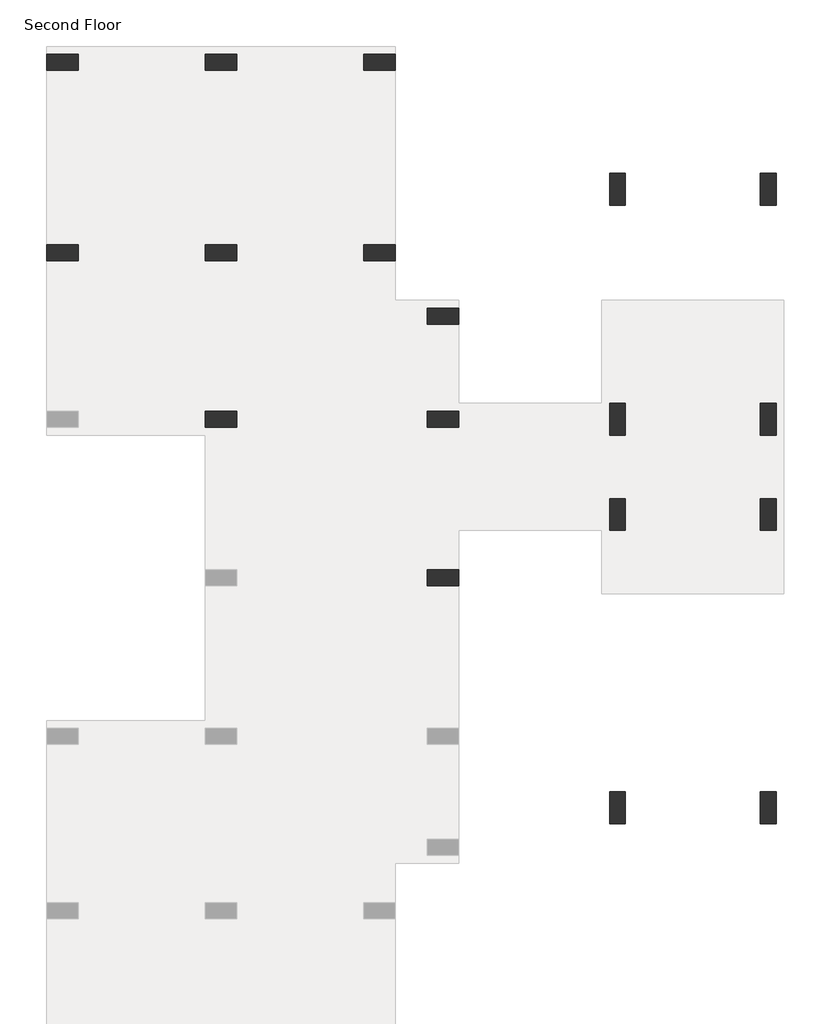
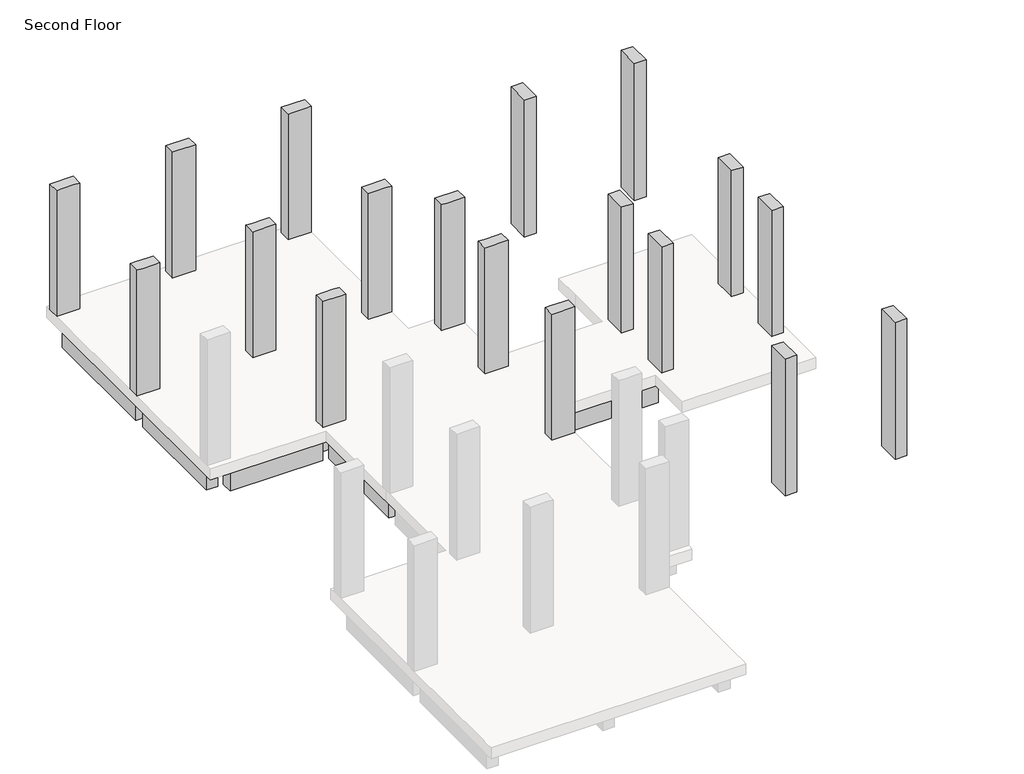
# One storey, part 2 of 2: 21 beams, 18 columns.
"""IFC4 building model written with IfcOpenShell, lengths in millimetres."""

from ifc_helpers import new_model, si_unit, frame, origin, place, context, project, spatial, polyline, outline, extrude, faceted_brep, element, save

model = new_model("IFC4")

# Units and contexts
model_context = context("Model", 3, world=origin())
ifc_project = project(units=[si_unit("LENGTHUNIT", "METRE", prefix="MILLI")], contexts=[model_context])

# Site, building, storey
site = spatial("IfcSite", under=ifc_project)
building = spatial("IfcBuilding", under=site)
storey = spatial("IfcBuildingStorey", under=building, Name="Second Floor", Elevation=3810.0)

# Beams
placement = place(None, origin())
element("IfcBeam", 1, ObjectType="Concrete-Rectangular Beam : 12 x 24", at=placement, inside=storey, context=model_context, shape_type="SweptSolid", body=[
    extrude(outline(polyline([(-12629.5554735, 14646.9867088), (-12629.5554735, 14342.1867088), (-15067.9554735, 14342.1867088), (-15067.9554735, 14646.9867088), (-12629.5554735, 14646.9867088)])), frame((0.0, 0.0, 2895.6), z_axis=(0.0, 0.0, 1.0), x_axis=(1.0, 0.0, 0.0)), (0.0, 0.0, 1.0), 609.6),
])
element("IfcBeam", 2, ObjectType="Concrete-Rectangular Beam : 12 x 24", at=placement, inside=storey, context=model_context, shape_type="SweptSolid", body=[
    extrude(outline(polyline([(-9581.5554735, 14646.9867088), (-9581.5554735, 14342.1867088), (-12019.9554735, 14342.1867088), (-12019.9554735, 14646.9867088), (-9581.5554735, 14646.9867088)])), frame((0.0, 0.0, 2895.6), z_axis=(0.0, 0.0, 1.0), x_axis=(1.0, 0.0, 0.0)), (0.0, 0.0, 1.0), 609.6),
])
element("IfcBeam", 3, ObjectType="Concrete-Rectangular Beam : 12 x 24", at=placement, inside=storey, context=model_context, shape_type="SweptSolid", body=[
    extrude(outline(polyline([(-15525.1554735, 14342.1867088), (-15220.3554735, 14342.1867088), (-15220.3554735, 10989.3867088), (-15525.1554735, 10989.3867088), (-15525.1554735, 14342.1867088)])), frame((0.0, 0.0, 2895.6), z_axis=(0.0, 0.0, 1.0), x_axis=(1.0, 0.0, 0.0)), (0.0, 0.0, 1.0), 609.6),
])
element("IfcBeam", 4, ObjectType="Concrete-Rectangular Beam : 12 x 24", at=placement, inside=storey, context=model_context, shape_type="SweptSolid", body=[
    extrude(outline(polyline([(-12629.5554735, 10989.3867088), (-12629.5554735, 10684.5867088), (-15067.9554735, 10684.5867088), (-15067.9554735, 10989.3867088), (-12629.5554735, 10989.3867088)])), frame((0.0, 0.0, 2895.6), z_axis=(0.0, 0.0, 1.0), x_axis=(1.0, 0.0, 0.0)), (0.0, 0.0, 1.0), 609.6),
])
element("IfcBeam", 5, ObjectType="Concrete-Rectangular Beam : 12 x 24", at=placement, inside=storey, context=model_context, shape_type="SweptSolid", body=[
    extrude(outline(polyline([(-12019.9554735, 10684.5867088), (-12019.9554735, 10989.3867088), (-9581.5554735, 10989.3867088), (-9581.5554735, 10684.5867088), (-12019.9554735, 10684.5867088)])), frame((0.0, 0.0, 2895.6), z_axis=(0.0, 0.0, 1.0), x_axis=(1.0, 0.0, 0.0)), (0.0, 0.0, 1.0), 609.6),
])
element("IfcBeam", 6, ObjectType="Concrete-Rectangular Beam : 12 x 24", at=placement, inside=storey, context=model_context, shape_type="SweptSolid", body=[
    extrude(outline(polyline([(-12172.3554735, 10989.3867088), (-12477.1554735, 10989.3867088), (-12477.1554735, 14342.1867088), (-12172.3554735, 14342.1867088), (-12172.3554735, 10989.3867088)])), frame((0.0, 0.0, 2895.6), z_axis=(0.0, 0.0, 1.0), x_axis=(1.0, 0.0, 0.0)), (0.0, 0.0, 1.0), 609.6),
])
element("IfcBeam", 7, ObjectType="Concrete-Rectangular Beam : 12 x 24", at=placement, inside=storey, context=model_context, shape_type="SweptSolid", body=[
    extrude(outline(polyline([(-9124.3554735, 10989.3867088), (-9429.1554735, 10989.3867088), (-9429.1554735, 14342.1867088), (-9124.3554735, 14342.1867088), (-9124.3554735, 10989.3867088)])), frame((0.0, 0.0, 2895.6), z_axis=(0.0, 0.0, 1.0), x_axis=(1.0, 0.0, 0.0)), (0.0, 0.0, 1.0), 609.6),
])
element("IfcBeam", 8, ObjectType="Concrete-Rectangular Beam : 12 x 24", at=placement, inside=storey, context=model_context, shape_type="Brep", body=[
    faceted_brep([(-9124.3554735, 10684.5867088, 3505.2), (-9429.1554735, 10684.5867088, 3505.2), (-9429.1554735, 9465.3867088, 3505.2), (-9124.3554735, 9465.3867088, 3505.2), (-9124.3554735, 9770.1867088, 3505.2), (-9429.1554735, 10684.5867088, 2895.6), (-9429.1554735, 9465.3867088, 2895.6), (-9124.3554735, 10684.5867088, 2895.6), (-9124.3554735, 9770.1867088, 2895.6), (-9124.3554735, 9465.3867088, 2895.6)], [[[0, 1, 2, 3, 4]], [[1, 5, 6, 2]], [[5, 7, 8, 9, 6]], [[7, 0, 4, 3, 9, 8]], [[0, 7, 5, 1]], [[3, 2, 6, 9]]]),
])
element("IfcBeam", 9, ObjectType="Concrete-Rectangular Beam : 12 x 24", at=placement, inside=storey, context=model_context, shape_type="SweptSolid", body=[
    extrude(outline(polyline([(-8362.3554735, 9770.1867088), (-8362.3554735, 9465.3867088), (-9124.3554735, 9465.3867088), (-9124.3554735, 9770.1867088), (-8362.3554735, 9770.1867088)])), frame((0.0, 0.0, 2895.6), z_axis=(0.0, 0.0, 1.0), x_axis=(1.0, 0.0, 0.0)), (0.0, 0.0, 1.0), 609.6),
])
element("IfcBeam", 10, ObjectType="Concrete-Rectangular Beam : 12 x 24", at=placement, inside=storey, context=model_context, shape_type="SweptSolid", body=[
    extrude(outline(polyline([(-7905.1554735, 7788.9867088), (-8209.9554735, 7788.9867088), (-8209.9554735, 9465.3867088), (-7905.1554735, 9465.3867088), (-7905.1554735, 7788.9867088)])), frame((0.0, 0.0, 2895.6), z_axis=(0.0, 0.0, 1.0), x_axis=(1.0, 0.0, 0.0)), (0.0, 0.0, 1.0), 609.6),
])
element("IfcBeam", 11, ObjectType="Concrete-Rectangular Beam : 12 x 24", at=placement, inside=storey, context=model_context, shape_type="SweptSolid", body=[
    extrude(outline(polyline([(-7752.7554735, 7484.1867088), (-7752.7554735, 7788.9867088), (-4857.1554735, 7788.9867088), (-4857.1554735, 7484.1867088), (-7752.7554735, 7484.1867088)])), frame((0.0, 0.0, 2895.6), z_axis=(0.0, 0.0, 1.0), x_axis=(1.0, 0.0, 0.0)), (0.0, 0.0, 1.0), 609.6),
])
element("IfcBeam", 12, ObjectType="Concrete-Rectangular Beam : 12 x 24", at=placement, inside=storey, context=model_context, shape_type="SweptSolid", body=[
    extrude(outline(polyline([(-4552.3554735, 7484.1867088), (-4552.3554735, 7788.9867088), (-1961.5554735, 7788.9867088), (-1961.5554735, 7484.1867088), (-4552.3554735, 7484.1867088)])), frame((0.0, 0.0, 2895.6), z_axis=(0.0, 0.0, 1.0), x_axis=(1.0, 0.0, 0.0)), (0.0, 0.0, 1.0), 609.6),
])
element("IfcBeam", 13, ObjectType="Concrete-Rectangular Beam : 12 x 24", at=placement, inside=storey, context=model_context, shape_type="SweptSolid", body=[
    extrude(outline(polyline([(-4552.3554735, 5655.3867088), (-4552.3554735, 5960.1867088), (-1961.5554735, 5960.1867088), (-1961.5554735, 5655.3867088), (-4552.3554735, 5655.3867088)])), frame((0.0, 0.0, 2895.6), z_axis=(0.0, 0.0, 1.0), x_axis=(1.0, 0.0, 0.0)), (0.0, 0.0, 1.0), 609.6),
])
element("IfcBeam", 14, ObjectType="Concrete-Rectangular Beam : 12 x 24", at=placement, inside=storey, context=model_context, shape_type="SweptSolid", body=[
    extrude(outline(polyline([(-7905.1554735, 5655.3867088), (-7905.1554735, 5960.1867088), (-4857.1554735, 5960.1867088), (-4857.1554735, 5655.3867088), (-7905.1554735, 5655.3867088)])), frame((0.0, 0.0, 2895.6), z_axis=(0.0, 0.0, 1.0), x_axis=(1.0, 0.0, 0.0)), (0.0, 0.0, 1.0), 609.6),
])
element("IfcBeam", 15, ObjectType="Concrete-Rectangular Beam : 12 x 24", at=placement, inside=storey, context=model_context, shape_type="Brep", body=[
    faceted_brep([(-8209.9554735, 4740.9867088, 3505.2), (-7905.1554735, 4740.9867088, 3505.2), (-7905.1554735, 5655.3867088, 3505.2), (-7905.1554735, 5960.1867088, 3505.2), (-7905.1554735, 7484.1867088, 3505.2), (-8209.9554735, 7484.1867088, 3505.2), (-8209.9554735, 4740.9867088, 2895.6), (-8209.9554735, 7484.1867088, 2895.6), (-7905.1554735, 4740.9867088, 2895.6), (-7905.1554735, 7484.1867088, 2895.6), (-7905.1554735, 5960.1867088, 2895.6), (-7905.1554735, 5655.3867088, 2895.6)], [[[0, 1, 2, 3, 4, 5]], [[6, 0, 5, 7]], [[8, 6, 7, 9, 10, 11]], [[1, 8, 11, 10, 9, 4, 3, 2]], [[4, 9, 7, 5]], [[1, 0, 6, 8]]]),
])
element("IfcBeam", 16, ObjectType="Concrete-Rectangular Beam : 12 x 24", at=placement, inside=storey, context=model_context, shape_type="SweptSolid", body=[
    extrude(outline(polyline([(-12019.9554735, 4436.1867088), (-12019.9554735, 4740.9867088), (-8362.3554735, 4740.9867088), (-8362.3554735, 4436.1867088), (-12019.9554735, 4436.1867088)])), frame((0.0, 0.0, 2895.6), z_axis=(0.0, 0.0, 1.0), x_axis=(1.0, 0.0, 0.0)), (0.0, 0.0, 1.0), 609.6),
])
element("IfcBeam", 17, ObjectType="Concrete-Rectangular Beam : 12 x 24", at=placement, inside=storey, context=model_context, shape_type="SweptSolid", body=[
    extrude(outline(polyline([(-15220.3554735, 7788.9867088), (-15525.1554735, 7788.9867088), (-15525.1554735, 10684.5867088), (-15220.3554735, 10684.5867088), (-15220.3554735, 7788.9867088)])), frame((0.0, 0.0, 2895.6), z_axis=(0.0, 0.0, 1.0), x_axis=(1.0, 0.0, 0.0)), (0.0, 0.0, 1.0), 609.6),
])
element("IfcBeam", 18, ObjectType="Concrete-Rectangular Beam : 12 x 24", at=placement, inside=storey, context=model_context, shape_type="SweptSolid", body=[
    extrude(outline(polyline([(-12172.3554735, 7788.9867088), (-12477.1554735, 7788.9867088), (-12477.1554735, 10684.5867088), (-12172.3554735, 10684.5867088), (-12172.3554735, 7788.9867088)])), frame((0.0, 0.0, 2895.6), z_axis=(0.0, 0.0, 1.0), x_axis=(1.0, 0.0, 0.0)), (0.0, 0.0, 1.0), 609.6),
])
element("IfcBeam", 19, ObjectType="Concrete-Rectangular Beam : 12 x 24", at=placement, inside=storey, context=model_context, shape_type="SweptSolid", body=[
    extrude(outline(polyline([(-12019.9554735, 7484.1867088), (-12019.9554735, 7788.9867088), (-8362.3554735, 7788.9867088), (-8362.3554735, 7484.1867088), (-12019.9554735, 7484.1867088)])), frame((0.0, 0.0, 2895.6), z_axis=(0.0, 0.0, 1.0), x_axis=(1.0, 0.0, 0.0)), (0.0, 0.0, 1.0), 609.6),
])
element("IfcBeam", 20, ObjectType="Concrete-Rectangular Beam : 12 x 24", at=placement, inside=storey, context=model_context, shape_type="SweptSolid", body=[
    extrude(outline(polyline([(-12477.1554735, 7484.1867088), (-12172.3554735, 7484.1867088), (-12172.3554735, 4740.9867088), (-12477.1554735, 4740.9867088), (-12477.1554735, 7484.1867088)])), frame((0.0, 0.0, 2895.6), z_axis=(0.0, 0.0, 1.0), x_axis=(1.0, 0.0, 0.0)), (0.0, 0.0, 1.0), 609.6),
])
element("IfcBeam", 21, ObjectType="Concrete-Rectangular Beam : 12 x 24", at=placement, inside=storey, context=model_context, shape_type="SweptSolid", body=[
    extrude(outline(polyline([(-15067.9554735, 7484.1867088), (-15067.9554735, 7788.9867088), (-12629.5554735, 7788.9867088), (-12629.5554735, 7484.1867088), (-15067.9554735, 7484.1867088)])), frame((0.0, 0.0, 2895.6), z_axis=(0.0, 0.0, 1.0), x_axis=(1.0, 0.0, 0.0)), (0.0, 0.0, 1.0), 609.6),
])

# Columns
element("IfcColumn", 22, ObjectType="Concrete-Rectangular-Column : 12 x 24", at=placement, inside=storey, context=model_context, shape_type="Brep", body=[
    faceted_brep([(-15677.5554735, 14646.9867088, 3810.0), (-15067.9554735, 14646.9867088, 3810.0), (-15067.9554735, 14342.1867088, 3810.0), (-15677.5554735, 14342.1867088, 3810.0), (-15677.5554735, 14646.9867088, 7315.2), (-15067.9554735, 14646.9867088, 7315.2), (-15067.9554735, 14646.9867088, 6705.6), (-15067.9554735, 14342.1867088, 7315.2), (-15067.9554735, 14342.1867088, 6705.6), (-15220.3554735, 14342.1867088, 7315.2), (-15525.1554735, 14342.1867088, 7315.2), (-15677.5554735, 14342.1867088, 7315.2)], [[[0, 1, 2, 3]], [[4, 5, 6, 1, 0]], [[5, 7, 8, 2, 1, 6]], [[7, 9, 10, 11, 3, 2, 8]], [[11, 4, 0, 3]], [[4, 11, 10, 9, 7, 5]]]),
])
element("IfcColumn", 23, ObjectType="Concrete-Rectangular-Column : 12 x 24", at=placement, inside=storey, context=model_context, shape_type="Brep", body=[
    faceted_brep([(-12629.5554735, 14646.9867088, 3810.0), (-12019.9554735, 14646.9867088, 3810.0), (-12019.9554735, 14342.1867088, 3810.0), (-12629.5554735, 14342.1867088, 3810.0), (-12629.5554735, 14646.9867088, 7315.2), (-12019.9554735, 14646.9867088, 7315.2), (-12019.9554735, 14646.9867088, 6705.6), (-12629.5554735, 14646.9867088, 6705.6), (-12019.9554735, 14342.1867088, 7315.2), (-12019.9554735, 14342.1867088, 6705.6), (-12172.3554735, 14342.1867088, 7315.2), (-12477.1554735, 14342.1867088, 7315.2), (-12629.5554735, 14342.1867088, 7315.2), (-12629.5554735, 14342.1867088, 6705.6)], [[[0, 1, 2, 3]], [[4, 5, 6, 1, 0, 7]], [[5, 8, 9, 2, 1, 6]], [[8, 10, 11, 12, 13, 3, 2, 9]], [[12, 4, 7, 0, 3, 13]], [[4, 12, 11, 10, 8, 5]]]),
])
element("IfcColumn", 24, ObjectType="Concrete-Rectangular-Column : 12 x 24", at=placement, inside=storey, context=model_context, shape_type="Brep", body=[
    faceted_brep([(-9581.5554735, 14646.9867088, 3810.0), (-8971.9554735, 14646.9867088, 3810.0), (-8971.9554735, 14342.1867088, 3810.0), (-9581.5554735, 14342.1867088, 3810.0), (-9581.5554735, 14646.9867088, 7315.2), (-8971.9554735, 14646.9867088, 7315.2), (-9581.5554735, 14646.9867088, 6705.6), (-8971.9554735, 14342.1867088, 7315.2), (-9124.3554735, 14342.1867088, 7315.2), (-9429.1554735, 14342.1867088, 7315.2), (-9581.5554735, 14342.1867088, 7315.2), (-9581.5554735, 14342.1867088, 6705.6)], [[[0, 1, 2, 3]], [[4, 5, 1, 0, 6]], [[5, 7, 2, 1]], [[7, 8, 9, 10, 11, 3, 2]], [[10, 4, 6, 0, 3, 11]], [[4, 10, 9, 8, 7, 5]]]),
])
element("IfcColumn", 25, ObjectType="Concrete-Rectangular-Column : 12 x 24", at=placement, inside=storey, context=model_context, shape_type="Brep", body=[
    faceted_brep([(-15677.5554735, 10989.3867088, 3810.0), (-15067.9554735, 10989.3867088, 3810.0), (-15067.9554735, 10684.5867088, 3810.0), (-15677.5554735, 10684.5867088, 3810.0), (-15677.5554735, 10989.3867088, 7315.2), (-15525.1554735, 10989.3867088, 7315.2), (-15220.3554735, 10989.3867088, 7315.2), (-15067.9554735, 10989.3867088, 7315.2), (-15067.9554735, 10989.3867088, 6705.6), (-15067.9554735, 10684.5867088, 7315.2), (-15067.9554735, 10684.5867088, 6705.6), (-15220.3554735, 10684.5867088, 7315.2), (-15525.1554735, 10684.5867088, 7315.2), (-15677.5554735, 10684.5867088, 7315.2)], [[[0, 1, 2, 3]], [[4, 5, 6, 7, 8, 1, 0]], [[7, 9, 10, 2, 1, 8]], [[9, 11, 12, 13, 3, 2, 10]], [[13, 4, 0, 3]], [[4, 13, 12, 11, 9, 7, 6, 5]]]),
])
element("IfcColumn", 26, ObjectType="Concrete-Rectangular-Column : 12 x 24", at=placement, inside=storey, context=model_context, shape_type="Brep", body=[
    faceted_brep([(-12629.5554735, 10989.3867088, 3810.0), (-12019.9554735, 10989.3867088, 3810.0), (-12019.9554735, 10684.5867088, 3810.0), (-12629.5554735, 10684.5867088, 3810.0), (-12629.5554735, 10989.3867088, 7315.2), (-12477.1554735, 10989.3867088, 7315.2), (-12172.3554735, 10989.3867088, 7315.2), (-12019.9554735, 10989.3867088, 7315.2), (-12019.9554735, 10989.3867088, 6705.6), (-12629.5554735, 10989.3867088, 6705.6), (-12019.9554735, 10684.5867088, 7315.2), (-12019.9554735, 10684.5867088, 6705.6), (-12172.3554735, 10684.5867088, 7315.2), (-12477.1554735, 10684.5867088, 7315.2), (-12629.5554735, 10684.5867088, 7315.2), (-12629.5554735, 10684.5867088, 6705.6)], [[[0, 1, 2, 3]], [[4, 5, 6, 7, 8, 1, 0, 9]], [[7, 10, 11, 2, 1, 8]], [[10, 12, 13, 14, 15, 3, 2, 11]], [[14, 4, 9, 0, 3, 15]], [[4, 14, 13, 12, 10, 7, 6, 5]]]),
])
element("IfcColumn", 27, ObjectType="Concrete-Rectangular-Column : 12 x 24", at=placement, inside=storey, context=model_context, shape_type="Brep", body=[
    faceted_brep([(-9581.5554735, 10989.3867088, 3810.0), (-8971.9554735, 10989.3867088, 3810.0), (-8971.9554735, 10684.5867088, 3810.0), (-9581.5554735, 10684.5867088, 3810.0), (-9581.5554735, 10989.3867088, 7315.2), (-9429.1554735, 10989.3867088, 7315.2), (-9124.3554735, 10989.3867088, 7315.2), (-8971.9554735, 10989.3867088, 7315.2), (-9581.5554735, 10989.3867088, 6705.6), (-8971.9554735, 10684.5867088, 7315.2), (-9124.3554735, 10684.5867088, 7315.2), (-9429.1554735, 10684.5867088, 7315.2), (-9581.5554735, 10684.5867088, 7315.2), (-9581.5554735, 10684.5867088, 6705.6)], [[[0, 1, 2, 3]], [[4, 5, 6, 7, 1, 0, 8]], [[7, 9, 2, 1]], [[9, 10, 11, 12, 13, 3, 2]], [[12, 4, 8, 0, 3, 13]], [[4, 12, 11, 10, 9, 7, 6, 5]]]),
])
element("IfcColumn", 28, ObjectType="Concrete-Rectangular-Column : 12 x 24", at=placement, inside=storey, context=model_context, shape_type="Brep", body=[
    faceted_brep([(-8362.3554735, 9770.1867088, 3810.0), (-7752.7554735, 9770.1867088, 3810.0), (-7752.7554735, 9465.3867088, 3810.0), (-8362.3554735, 9465.3867088, 3810.0), (-8362.3554735, 9770.1867088, 7315.2), (-7752.7554735, 9770.1867088, 7315.2), (-8362.3554735, 9770.1867088, 6705.6), (-7752.7554735, 9465.3867088, 7315.2), (-7905.1554735, 9465.3867088, 7315.2), (-8209.9554735, 9465.3867088, 7315.2), (-8362.3554735, 9465.3867088, 7315.2), (-8362.3554735, 9465.3867088, 6705.6)], [[[0, 1, 2, 3]], [[4, 5, 1, 0, 6]], [[5, 7, 2, 1]], [[7, 8, 9, 10, 11, 3, 2]], [[10, 4, 6, 0, 3, 11]], [[4, 10, 9, 8, 7, 5]]]),
])
element("IfcColumn", 29, ObjectType="Concrete-Rectangular-Column : 12 x 24", at=placement, inside=storey, context=model_context, shape_type="Brep", body=[
    faceted_brep([(-12629.5554735, 7788.9867088, 3810.0), (-12019.9554735, 7788.9867088, 3810.0), (-12019.9554735, 7484.1867088, 3810.0), (-12629.5554735, 7484.1867088, 3810.0), (-12629.5554735, 7788.9867088, 7315.2), (-12477.1554735, 7788.9867088, 7315.2), (-12172.3554735, 7788.9867088, 7315.2), (-12019.9554735, 7788.9867088, 7315.2), (-12019.9554735, 7788.9867088, 6705.6), (-12629.5554735, 7788.9867088, 6705.6), (-12019.9554735, 7484.1867088, 7315.2), (-12019.9554735, 7484.1867088, 6705.6), (-12172.3554735, 7484.1867088, 7315.2), (-12477.1554735, 7484.1867088, 7315.2), (-12629.5554735, 7484.1867088, 7315.2), (-12629.5554735, 7484.1867088, 6705.6)], [[[0, 1, 2, 3]], [[4, 5, 6, 7, 8, 1, 0, 9]], [[7, 10, 11, 2, 1, 8]], [[10, 12, 13, 14, 15, 3, 2, 11]], [[14, 4, 9, 0, 3, 15]], [[4, 14, 13, 12, 10, 7, 6, 5]]]),
])
element("IfcColumn", 30, ObjectType="Concrete-Rectangular-Column : 12 x 24", at=placement, inside=storey, context=model_context, shape_type="Brep", body=[
    faceted_brep([(-8362.3554735, 7788.9867088, 3810.0), (-7752.7554735, 7788.9867088, 3810.0), (-7752.7554735, 7484.1867088, 3810.0), (-8362.3554735, 7484.1867088, 3810.0), (-8362.3554735, 7788.9867088, 7315.2), (-8209.9554735, 7788.9867088, 7315.2), (-7905.1554735, 7788.9867088, 7315.2), (-7752.7554735, 7788.9867088, 7315.2), (-7752.7554735, 7788.9867088, 6705.6), (-8362.3554735, 7788.9867088, 6705.6), (-7752.7554735, 7484.1867088, 7315.2), (-7752.7554735, 7484.1867088, 6705.6), (-7905.1554735, 7484.1867088, 7315.2), (-8209.9554735, 7484.1867088, 7315.2), (-8362.3554735, 7484.1867088, 7315.2), (-8362.3554735, 7484.1867088, 6705.6)], [[[0, 1, 2, 3]], [[4, 5, 6, 7, 8, 1, 0, 9]], [[7, 10, 11, 2, 1, 8]], [[10, 12, 13, 14, 15, 3, 2, 11]], [[14, 4, 9, 0, 3, 15]], [[4, 14, 13, 12, 10, 7, 6, 5]]]),
])
element("IfcColumn", 31, ObjectType="Concrete-Rectangular-Column : 12 x 24", at=placement, inside=storey, context=model_context, shape_type="SweptSolid", body=[
    extrude(outline(polyline([(-4857.1554735, 7331.7867088), (-4857.1554735, 7941.3867088), (-4552.3554735, 7941.3867088), (-4552.3554735, 7331.7867088), (-4857.1554735, 7331.7867088)])), frame((0.0, 0.0, 3810.0), z_axis=(0.0, 0.0, 1.0), x_axis=(1.0, 0.0, 0.0)), (0.0, 0.0, 1.0), 3505.2),
])
element("IfcColumn", 32, ObjectType="Concrete-Rectangular-Column : 12 x 24", at=placement, inside=storey, context=model_context, shape_type="SweptSolid", body=[
    extrude(outline(polyline([(-1961.5554735, 7331.7867088), (-1961.5554735, 7941.3867088), (-1656.7554735, 7941.3867088), (-1656.7554735, 7331.7867088), (-1961.5554735, 7331.7867088)])), frame((0.0, 0.0, 3810.0), z_axis=(0.0, 0.0, 1.0), x_axis=(1.0, 0.0, 0.0)), (0.0, 0.0, 1.0), 3505.2),
])
element("IfcColumn", 33, ObjectType="Concrete-Rectangular-Column : 12 x 24", at=placement, inside=storey, context=model_context, shape_type="SweptSolid", body=[
    extrude(outline(polyline([(-4857.1554735, 5502.9867088), (-4857.1554735, 6112.5867088), (-4552.3554735, 6112.5867088), (-4552.3554735, 5502.9867088), (-4857.1554735, 5502.9867088)])), frame((0.0, 0.0, 3810.0), z_axis=(0.0, 0.0, 1.0), x_axis=(1.0, 0.0, 0.0)), (0.0, 0.0, 1.0), 3505.2),
])
element("IfcColumn", 34, ObjectType="Concrete-Rectangular-Column : 12 x 24", at=placement, inside=storey, context=model_context, shape_type="SweptSolid", body=[
    extrude(outline(polyline([(-1961.5554735, 5502.9867088), (-1961.5554735, 6112.5867088), (-1656.7554735, 6112.5867088), (-1656.7554735, 5502.9867088), (-1961.5554735, 5502.9867088)])), frame((0.0, 0.0, 3810.0), z_axis=(0.0, 0.0, 1.0), x_axis=(1.0, 0.0, 0.0)), (0.0, 0.0, 1.0), 3505.2),
])
element("IfcColumn", 35, ObjectType="Concrete-Rectangular-Column : 12 x 24", at=placement, inside=storey, context=model_context, shape_type="Brep", body=[
    faceted_brep([(-8362.3554735, 4740.9867088, 3810.0), (-7752.7554735, 4740.9867088, 3810.0), (-7752.7554735, 4436.1867088, 3810.0), (-8362.3554735, 4436.1867088, 3810.0), (-8362.3554735, 4740.9867088, 7315.2), (-8209.9554735, 4740.9867088, 7315.2), (-7905.1554735, 4740.9867088, 7315.2), (-7752.7554735, 4740.9867088, 7315.2), (-8362.3554735, 4740.9867088, 6705.6), (-7752.7554735, 4436.1867088, 7315.2), (-7905.1554735, 4436.1867088, 7315.2), (-8209.9554735, 4436.1867088, 7315.2), (-8362.3554735, 4436.1867088, 7315.2), (-8362.3554735, 4436.1867088, 6705.6)], [[[0, 1, 2, 3]], [[4, 5, 6, 7, 1, 0, 8]], [[7, 9, 2, 1]], [[9, 10, 11, 12, 13, 3, 2]], [[12, 4, 8, 0, 3, 13]], [[4, 12, 11, 10, 9, 7, 6, 5]]]),
])
element("IfcColumn", 36, ObjectType="Concrete-Rectangular-Column : 12 x 24", at=placement, inside=storey, context=model_context, shape_type="SweptSolid", body=[
    extrude(outline(polyline([(-4857.1554735, 11751.3867088), (-4857.1554735, 12360.9867088), (-4552.3554735, 12360.9867088), (-4552.3554735, 11751.3867088), (-4857.1554735, 11751.3867088)])), frame((0.0, 0.0, 3810.0), z_axis=(0.0, 0.0, 1.0), x_axis=(1.0, 0.0, 0.0)), (0.0, 0.0, 1.0), 3810.0),
])
element("IfcColumn", 37, ObjectType="Concrete-Rectangular-Column : 12 x 24", at=placement, inside=storey, context=model_context, shape_type="SweptSolid", body=[
    extrude(outline(polyline([(-1961.5554735, 11751.3867088), (-1961.5554735, 12360.9867088), (-1656.7554735, 12360.9867088), (-1656.7554735, 11751.3867088), (-1961.5554735, 11751.3867088)])), frame((0.0, 0.0, 3810.0), z_axis=(0.0, 0.0, 1.0), x_axis=(1.0, 0.0, 0.0)), (0.0, 0.0, 1.0), 3810.0),
])
element("IfcColumn", 38, ObjectType="Concrete-Rectangular-Column : 12 x 24", at=placement, inside=storey, context=model_context, shape_type="SweptSolid", body=[
    extrude(outline(polyline([(-4857.1554735, -135.8132912), (-4857.1554735, 473.7867088), (-4552.3554735, 473.7867088), (-4552.3554735, -135.8132912), (-4857.1554735, -135.8132912)])), frame((0.0, 0.0, 3810.0), z_axis=(0.0, 0.0, 1.0), x_axis=(1.0, 0.0, 0.0)), (0.0, 0.0, 1.0), 3810.0),
])
element("IfcColumn", 39, ObjectType="Concrete-Rectangular-Column : 12 x 24", at=placement, inside=storey, context=model_context, shape_type="SweptSolid", body=[
    extrude(outline(polyline([(-1961.5554735, -135.8132912), (-1961.5554735, 473.7867088), (-1656.7554735, 473.7867088), (-1656.7554735, -135.8132912), (-1961.5554735, -135.8132912)])), frame((0.0, 0.0, 3810.0), z_axis=(0.0, 0.0, 1.0), x_axis=(1.0, 0.0, 0.0)), (0.0, 0.0, 1.0), 3810.0),
])

save(model, "model.ifc")
